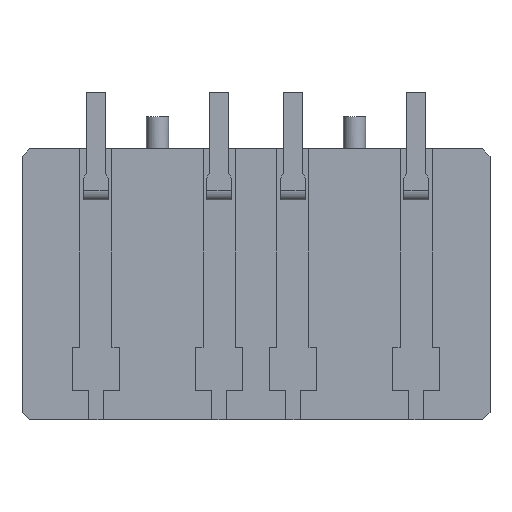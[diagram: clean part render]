
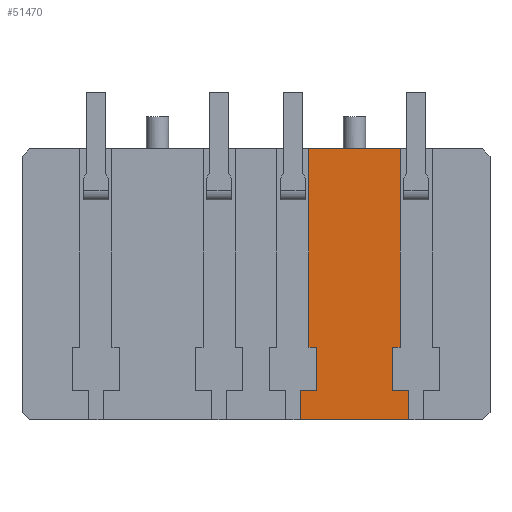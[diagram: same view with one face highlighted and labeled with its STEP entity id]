
A CAD part, front view. The second image highlights one B-rep face of the part: STEP entity #51470.
In plain terms, the highlighted planar face has unit normal (0, -1, 0).
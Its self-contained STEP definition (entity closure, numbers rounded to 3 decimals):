
#31570=CARTESIAN_POINT('',(42.812,31.258,3.1));
#31580=VERTEX_POINT('',#31570);
#31730=CARTESIAN_POINT('',(42.812,31.258,-4.95));
#31740=VERTEX_POINT('',#31730);
#31770=CARTESIAN_POINT('',(42.812,31.258,-0.05));
#31780=DIRECTION('',(0.,0.,-1.));
#31790=VECTOR('',#31780,1.);
#31800=LINE('',#31770,#31790);
#31810=EDGE_CURVE('',#31580,#31740,#31800,.T.);
#34590=CARTESIAN_POINT('',(34.047,31.258,-4.95));
#34600=DIRECTION('',(-1.,0.,0.));
#34610=VECTOR('',#34600,1.);
#34620=LINE('',#34590,#34610);
#34630=CARTESIAN_POINT('',(42.512,31.258,-4.95));
#34640=VERTEX_POINT('',#34630);
#34650=EDGE_CURVE('',#31740,#34640,#34620,.T.);
#34940=CARTESIAN_POINT('',(42.512,31.258,-6.7));
#34950=VERTEX_POINT('',#34940);
#35000=CARTESIAN_POINT('',(42.512,31.258,-0.05));
#35010=DIRECTION('',(0.,0.,-1.));
#35020=VECTOR('',#35010,1.);
#35030=LINE('',#35000,#35020);
#35040=EDGE_CURVE('',#34640,#34950,#35030,.T.);
#44340=CARTESIAN_POINT('',(38.762,31.258,-0.05));
#44350=DIRECTION('',(0.,0.,-1.));
#44360=VECTOR('',#44350,1.);
#44370=LINE('',#44340,#44360);
#44380=CARTESIAN_POINT('',(38.762,31.258,-6.7));
#44390=VERTEX_POINT('',#44380);
#44400=CARTESIAN_POINT('',(38.762,31.258,-7.9));
#44410=VERTEX_POINT('',#44400);
#44420=EDGE_CURVE('',#44390,#44410,#44370,.T.);
#50390=CARTESIAN_POINT('',(43.162,31.258,-0.05));
#50400=DIRECTION('',(0.,0.,1.));
#50410=VECTOR('',#50400,1.);
#50420=LINE('',#50390,#50410);
#50430=CARTESIAN_POINT('',(43.162,31.258,-7.9));
#50440=VERTEX_POINT('',#50430);
#50450=CARTESIAN_POINT('',(43.162,31.258,-6.7));
#50460=VERTEX_POINT('',#50450);
#50470=EDGE_CURVE('',#50440,#50460,#50420,.T.);
#50710=CARTESIAN_POINT('',(34.047,31.258,-6.7));
#50720=DIRECTION('',(1.,0.,0.));
#50730=VECTOR('',#50720,1.);
#50740=LINE('',#50710,#50730);
#50750=EDGE_CURVE('',#34950,#50460,#50740,.T.);
#50820=CARTESIAN_POINT('',(46.462,31.258,0.));
#50830=DIRECTION('',(-0.,-1.,-0.));
#50840=DIRECTION('',(-1.,0.,0.));
#50850=AXIS2_PLACEMENT_3D('',#50820,#50830,#50840);
#50860=PLANE('',#50850);
#50870=CARTESIAN_POINT('',(34.047,31.258,3.1));
#50880=DIRECTION('',(1.,0.,0.));
#50890=VECTOR('',#50880,1.);
#50900=LINE('',#50870,#50890);
#50910=CARTESIAN_POINT('',(39.112,31.258,3.1));
#50920=VERTEX_POINT('',#50910);
#50930=CARTESIAN_POINT('',(40.962,31.258,3.1));
#50940=VERTEX_POINT('',#50930);
#50950=EDGE_CURVE('',#50920,#50940,#50900,.T.);
#50960=ORIENTED_EDGE('',*,*,#50950,.F.);
#50970=CARTESIAN_POINT('',(34.047,31.258,3.1));
#50980=DIRECTION('',(1.,0.,0.));
#50990=VECTOR('',#50980,1.);
#51000=LINE('',#50970,#50990);
#51010=EDGE_CURVE('',#50940,#31580,#51000,.T.);
#51020=ORIENTED_EDGE('',*,*,#51010,.F.);
#51030=ORIENTED_EDGE('',*,*,#31810,.F.);
#51040=ORIENTED_EDGE('',*,*,#34650,.F.);
#51050=ORIENTED_EDGE('',*,*,#35040,.F.);
#51060=ORIENTED_EDGE('',*,*,#50750,.F.);
#51070=ORIENTED_EDGE('',*,*,#50470,.T.);
#51080=CARTESIAN_POINT('',(9.462,31.258,-7.9));
#51090=DIRECTION('',(1.,0.,0.));
#51100=VECTOR('',#51090,1.);
#51110=LINE('',#51080,#51100);
#51120=EDGE_CURVE('',#44410,#50440,#51110,.T.);
#51130=ORIENTED_EDGE('',*,*,#51120,.T.);
#51140=ORIENTED_EDGE('',*,*,#44420,.T.);
#51150=CARTESIAN_POINT('',(34.047,31.258,-6.7));
#51160=DIRECTION('',(1.,0.,0.));
#51170=VECTOR('',#51160,1.);
#51180=LINE('',#51150,#51170);
#51190=CARTESIAN_POINT('',(39.412,31.258,-6.7));
#51200=VERTEX_POINT('',#51190);
#51210=EDGE_CURVE('',#44390,#51200,#51180,.T.);
#51220=ORIENTED_EDGE('',*,*,#51210,.F.);
#51230=CARTESIAN_POINT('',(39.412,31.258,-0.05));
#51240=DIRECTION('',(0.,0.,1.));
#51250=VECTOR('',#51240,1.);
#51260=LINE('',#51230,#51250);
#51270=CARTESIAN_POINT('',(39.412,31.258,-4.95));
#51280=VERTEX_POINT('',#51270);
#51290=EDGE_CURVE('',#51200,#51280,#51260,.T.);
#51300=ORIENTED_EDGE('',*,*,#51290,.F.);
#51310=CARTESIAN_POINT('',(34.047,31.258,-4.95));
#51320=DIRECTION('',(-1.,0.,0.));
#51330=VECTOR('',#51320,1.);
#51340=LINE('',#51310,#51330);
#51350=CARTESIAN_POINT('',(39.112,31.258,-4.95));
#51360=VERTEX_POINT('',#51350);
#51370=EDGE_CURVE('',#51280,#51360,#51340,.T.);
#51380=ORIENTED_EDGE('',*,*,#51370,.F.);
#51390=CARTESIAN_POINT('',(39.112,31.258,-0.05));
#51400=DIRECTION('',(0.,0.,1.));
#51410=VECTOR('',#51400,1.);
#51420=LINE('',#51390,#51410);
#51430=EDGE_CURVE('',#51360,#50920,#51420,.T.);
#51440=ORIENTED_EDGE('',*,*,#51430,.F.);
#51450=EDGE_LOOP('',(#51440,#51380,#51300,#51220,#51140,#51130,#51070,
#51060,#51050,#51040,#51030,#51020,#50960));
#51460=FACE_OUTER_BOUND('',#51450,.T.);
#51470=ADVANCED_FACE('',(#51460),#50860,.T.);
